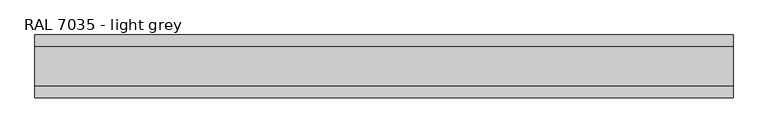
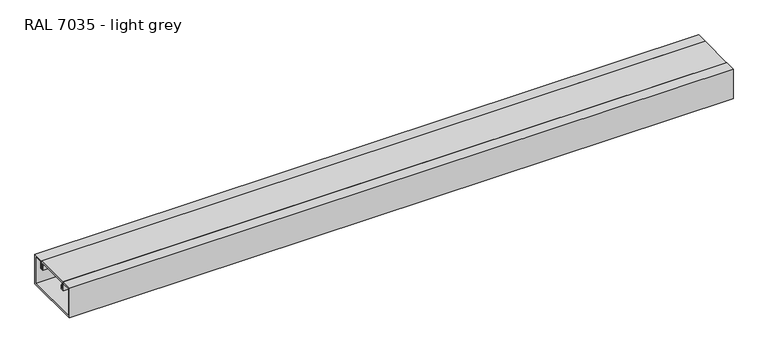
"""IFC4 building model written with IfcOpenShell, lengths in millimetres: proxy geometry, Electrical_Installations_Hager_BRP-Lid-End-Cap-One-Compartment : RAL 7035 - light grey."""

import ifcopenshell
import ifcopenshell.guid

model = None  # the IFC model being written
_history = None  # IfcOwnerHistory: only IFC2X3 demands one
_inside = {}  # id of a spatial element -> (the spatial element, [elements in it])
_under = {}  # id of a project, library or spatial element -> (it, [spatial elements below it])
_declared = {}  # id of a project -> (the project, [libraries it declares])
_typed = {}  # id of a type object -> (the type object, [elements of that type])
_made_of = {}  # id of a material, layer set ... -> (it, [elements and type objects made of it])


def new_model(schema):
    """Start an empty IFC model of exactly this schema.

    Asked for "IFC4X3", IfcOpenShell would pick the latest addendum, in which some entities
    have other attributes; the version numbers below select the first issue.
    IFC2X3 requires an IfcOwnerHistory on every rooted entity: one is made here for all.
    """
    global model, _history
    if schema == "IFC4X3":
        model = ifcopenshell.file(schema_version=(4, 3, 0, 0))
    else:
        model = ifcopenshell.file(schema=schema)
    _inside.clear()
    _under.clear()
    _declared.clear()
    _typed.clear()
    _made_of.clear()
    _history = None
    if model.schema == "IFC2X3":
        org = make("IfcOrganization", Name="unknown")
        user = make(
            "IfcPersonAndOrganization",
            ThePerson=make("IfcPerson", FamilyName="unknown"),
            TheOrganization=org,
        )
        app = make(
            "IfcApplication",
            ApplicationDeveloper=org,
            Version="unknown",
            ApplicationFullName="unknown",
            ApplicationIdentifier="unknown",
        )
        _history = make(
            "IfcOwnerHistory",
            OwningUser=user,
            OwningApplication=app,
            ChangeAction="ADDED",
            CreationDate=0,
        )
    return model


def make(cls, **values):
    """One entity of the class cls with the attributes given. An attribute that is None is left unset."""
    return model.create_entity(
        cls, **{name: value for name, value in values.items() if value is not None}
    )


def rooted(cls, **values):
    """An entity with a GlobalId (a new one), such as an element, a storey or a relation."""
    return make(cls, GlobalId=ifcopenshell.guid.new(), OwnerHistory=_history, **values)


def si_unit(unit_type, name, prefix=None):
    """IfcSIUnit, for example si_unit("LENGTHUNIT", "METRE", prefix="MILLI")."""
    return make("IfcSIUnit", UnitType=unit_type, Prefix=prefix, Name=name)


def assignment(units):
    """IfcUnitAssignment: the units of a project."""
    return None if units is None else make("IfcUnitAssignment", Units=units)


def point(xyz):
    """IfcCartesianPoint."""
    return None if xyz is None else make("IfcCartesianPoint", Coordinates=xyz)


def direction(xyz):
    """IfcDirection."""
    return None if xyz is None else make("IfcDirection", DirectionRatios=xyz)


def frame(location, z_axis=None, x_axis=None):
    """IfcAxis2Placement3D, a coordinate frame: its origin and axes. An axis left out is left unset."""
    return make(
        "IfcAxis2Placement3D",
        Location=point(location),
        Axis=direction(z_axis),
        RefDirection=direction(x_axis),
    )


def origin():
    """The frame at (0, 0, 0) with its axes left unset."""
    return frame((0.0, 0.0, 0.0))


def place(relative_to, where):
    """IfcLocalPlacement: puts the frame where relative to a parent placement (None: the world)."""
    return make(
        "IfcLocalPlacement", PlacementRelTo=relative_to, RelativePlacement=where
    )


def context(
    kind, dimensions, precision=None, world=None, true_north=None, identifier=None
):
    """IfcGeometricRepresentationContext, for example the 3D "Model" context."""
    return make(
        "IfcGeometricRepresentationContext",
        ContextIdentifier=identifier,
        ContextType=kind,
        CoordinateSpaceDimension=dimensions,
        Precision=precision,
        WorldCoordinateSystem=world,
        TrueNorth=true_north,
    )


def project(units=None, contexts=None):
    """IfcProject with its units and contexts."""
    return rooted(
        "IfcProject",
        Name="project",
        RepresentationContexts=contexts,
        UnitsInContext=assignment(units),
    )


def spatial(cls, under=None, at=None, **own):
    """A site, building, storey or space (cls), placed at a placement, below another one or the project."""
    s = rooted(cls, ObjectPlacement=at, **own)
    if under is not None:
        _under.setdefault(under.id(), (under, []))[1].append(s)
    return s


def polyline(points):
    """IfcPolyline through the points."""
    return make("IfcPolyline", Points=[point(p) for p in points])


def outline(outer, holes=None, kind="AREA"):
    """IfcArbitraryClosedProfileDef: a profile drawn as a closed curve; with holes, ...WithVoids."""
    if holes is None:
        return make("IfcArbitraryClosedProfileDef", ProfileType=kind, OuterCurve=outer)
    return make(
        "IfcArbitraryProfileDefWithVoids",
        ProfileType=kind,
        OuterCurve=outer,
        InnerCurves=holes,
    )


def extrude(swept, where, along, depth):
    """IfcExtrudedAreaSolid: the profile swept, set in the frame where, extruded along a direction by depth."""
    return make(
        "IfcExtrudedAreaSolid",
        SweptArea=swept,
        Position=where,
        ExtrudedDirection=direction(along),
        Depth=depth,
    )


def shape(context_of_items, identifier, shape_type, items):
    """IfcShapeRepresentation: the items that make up one representation, for example the "Body"."""
    return make(
        "IfcShapeRepresentation",
        ContextOfItems=context_of_items,
        RepresentationIdentifier=identifier,
        RepresentationType=shape_type,
        Items=items,
    )


def source(mapping_origin, context_of_items, identifier, shape_type, items):
    """IfcRepresentationMap: a shape defined once, which mapped items show again and again."""
    return make(
        "IfcRepresentationMap",
        MappingOrigin=mapping_origin,
        MappedRepresentation=shape(context_of_items, identifier, shape_type, items),
    )


def transform(
    local_origin,
    x_axis=None,
    y_axis=None,
    z_axis=None,
    scale=None,
    scale2=None,
    scale3=None,
    uniform=True,
):
    """IfcCartesianTransformationOperator3D, or its non-uniform kind. x_axis, y_axis, z_axis: its Axis1, 2, 3."""
    if uniform:
        return make(
            "IfcCartesianTransformationOperator3D",
            Axis1=direction(x_axis),
            Axis2=direction(y_axis),
            LocalOrigin=point(local_origin),
            Scale=scale,
            Axis3=direction(z_axis),
        )
    return make(
        "IfcCartesianTransformationOperator3DnonUniform",
        Axis1=direction(x_axis),
        Axis2=direction(y_axis),
        LocalOrigin=point(local_origin),
        Scale=scale,
        Axis3=direction(z_axis),
        Scale2=scale2,
        Scale3=scale3,
    )


def mapped(mapping_source, mapping_target):
    """IfcMappedItem: shows the shape of a source again, moved by a transform."""
    return make(
        "IfcMappedItem", MappingSource=mapping_source, MappingTarget=mapping_target
    )


def made_of(thing, what):
    """Note that an element or type object is made of a material, layer set ...; save() writes the relation."""
    if what is not None:
        _made_of.setdefault(what.id(), (what, []))[1].append(thing)
    return thing


def element(
    cls,
    number,
    at=None,
    inside=None,
    cuts=None,
    type_object=None,
    material=None,
    context=None,
    identifier="Body",
    shape_type=None,
    held_by="IfcProductDefinitionShape",
    body=None,
    shapes=None,
    **own,
):
    """One element of the class cls, such as IfcWall. Its Tag is "e" and its number.

    at: its placement. inside: the storey or other place that contains it. cuts: it is an
    opening in that element (IfcRelVoidsElement). A single representation is given by context,
    identifier, shape_type and body (its items); several are given by shapes. held_by: the class
    of the entity that holds the representations. save() writes the other relations.
    """
    e = rooted(cls, Tag="e%d" % number, ObjectPlacement=at, **own)
    if body is not None:
        shapes = [shape(context, identifier, shape_type, body)]
    if shapes is not None:
        e.Representation = make(held_by, Representations=shapes)
    if inside is not None:
        _inside.setdefault(inside.id(), (inside, []))[1].append(e)
    if cuts is not None:
        rooted(
            "IfcRelVoidsElement", RelatingBuildingElement=cuts, RelatedOpeningElement=e
        )
    if type_object is not None:
        _typed.setdefault(type_object.id(), (type_object, []))[1].append(e)
    return made_of(e, material)


def aggregate(whole, parts):
    """IfcRelAggregates: a whole, such as a stair, and the parts it consists of."""
    return rooted("IfcRelAggregates", RelatingObject=whole, RelatedObjects=parts)


def save(model, path):
    """Write the relations noted so far, then the file.

    IfcRelAggregates (storeys below a building ...), IfcRelContainedInSpatialStructure (elements
    in a storey), IfcRelDefinesByType, IfcRelAssociatesMaterial and IfcRelDeclares: one each for
    every whole, place, type object, material and project.
    """
    for whole, parts in _under.values():
        aggregate(whole, parts)
    for where, things in _inside.values():
        rooted(
            "IfcRelContainedInSpatialStructure",
            RelatedElements=things,
            RelatingStructure=where,
        )
    for kind, things in _typed.values():
        rooted("IfcRelDefinesByType", RelatedObjects=things, RelatingType=kind)
    for what, things in _made_of.values():
        rooted("IfcRelAssociatesMaterial", RelatedObjects=things, RelatingMaterial=what)
    for by, libraries in _declared.values():
        rooted("IfcRelDeclares", RelatingContext=by, RelatedDefinitions=libraries)
    model.write(path)


def ral_7035_light_grey_ab9cb874(model_context):
    return source(origin(), model_context, "Body", "SweptSolid", [
        extrude(outline(polyline([(40.0, 18.6492509), (37.5361498, 18.6492509), (37.5361498, 30.0), (-37.5361498, 30.0), (-37.5361498, 18.6492509), (-40.0, 18.6492509), (-40.0, 33.0), (40.0, 33.0), (40.0, 18.6492509)])), frame((0.0, 0.0, 0.0), z_axis=(1.0, 0.0, 0.0), x_axis=(0.0, 1.0, 0.0)), (0.0, 0.0, 1.0), 1446.215723),
        extrude(outline(polyline([(65.0, 33.0), (65.0, -35.0582587), (-65.0, -35.0582587), (-65.0, 33.0), (-40.5, 33.0), (-40.5, 16.0), (-36.578125, 16.0), (-36.578125, 24.0415809), (-35.3, 24.0415809), (-35.3, 14.0), (-42.5, 14.0), (-42.5, 30.0), (-62.0, 30.0), (-62.0, -32.0582587), (62.0, -32.0582587), (62.0, 30.0), (42.5, 30.0), (42.5, 14.0), (35.221875, 14.0), (35.221875, 24.0415809), (36.5, 24.0415809), (36.5, 16.0), (40.5, 16.0), (40.5, 33.0), (65.0, 33.0)])), frame((0.0, 0.0, 0.0), z_axis=(1.0, 0.0, 0.0), x_axis=(0.0, 1.0, 0.0)), (0.0, 0.0, 1.0), 1446.215723),
    ])


if __name__ == "__main__":
    model = new_model("IFC4")
    model_context = context("Model", 3, world=origin())
    ifc_project = project(units=[si_unit("LENGTHUNIT", "METRE", prefix="MILLI")], contexts=[model_context])
    site = spatial("IfcSite", under=ifc_project)
    building = spatial("IfcBuilding", under=site)
    placement = place(None, origin())
    ral_7035_light_grey_shape = ral_7035_light_grey_ab9cb874(model_context)
    element("IfcBuildingElementProxy", 1, Name="Electrical_Installations_Hager_BRP-Lid-End-Cap-One-Compartment : RAL 7035 - light grey", ObjectType="Electrical_Installations_Hager_BRP-Lid-End-Cap-One-Compartment : RAL 7035 - light grey", at=placement, inside=building, context=model_context, shape_type="MappedRepresentation", body=[
        mapped(ral_7035_light_grey_shape, transform((0.0, 0.0, 0.0), x_axis=(1.0, 0.0, 0.0), y_axis=(0.0, 1.0, 0.0), z_axis=(0.0, 0.0, 1.0))),
    ])
    save(model, "model.ifc")
